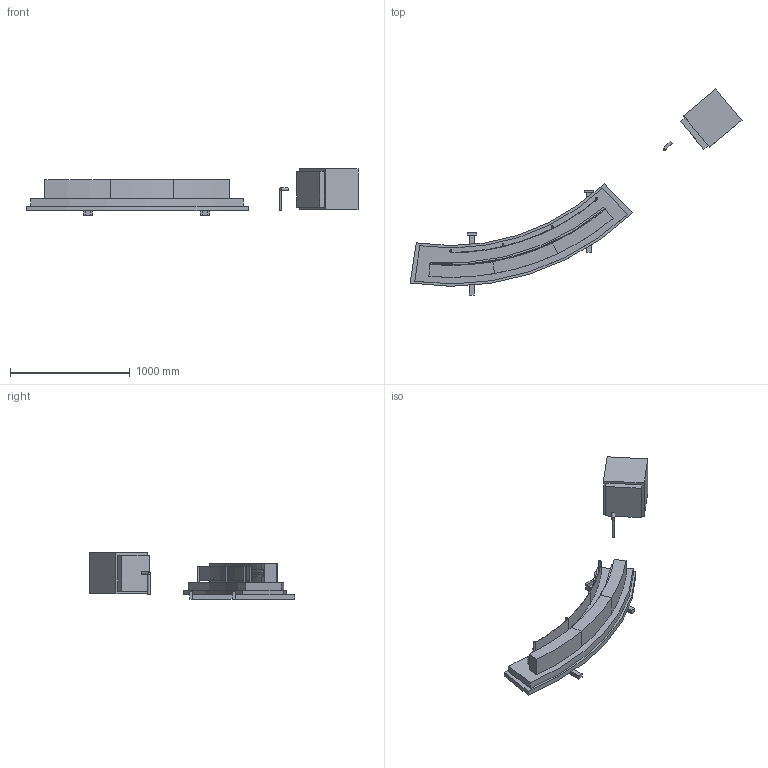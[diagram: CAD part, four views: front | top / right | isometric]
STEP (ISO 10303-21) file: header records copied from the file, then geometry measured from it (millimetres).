
FILE_DESCRIPTION(('Open CASCADE Model'),'2;1');
FILE_NAME('Open CASCADE Shape Model','2026-11-13T06:32:21',('Author'),( 'Open CASCADE'),'Open CASCADE STEP processor 7.9','Open CASCADE 7.9' ,'Unknown');
FILE_SCHEMA(('AUTOMOTIVE_DESIGN { 1 0 10303 214 1 1 1 1 }'));
Length unit declared in the file: millimetre
Products named in the file (34): T1_track_fixture; 00_BLOCK_1; 01_BLOCK_2; 02_BLOCK_3; 03_LINER; 04_LIP_UPPER; 05_LIP_LOWER; 06_PVDF_0; 07_PVDF_5; 08_PVDF_10; 09_PVDF_15; 10_PVDF_20; 11_PVDF_25; 12_PVDF_30; 13_PVDF_35; 14_PVDF_40; 15_WITNESS_1; 16_WITNESS_2; 17_WITNESS_3; 18_POST_1; 19_POST_2; 20_POST_3; 21_POST_4; 22_BASE_PLATE; 23_SLIDE_PLATE; 24_RAIL_1; 25_SHIM_PACK_1; 26_RAIL_2; 27_SHIM_PACK_2; 28_COUPON_(g_=_5); 29_CATCHER_FACE; 30_CATCHER_BODY; 31_PDV_PROBE; 32_PDV_POST
Assembly tree (33 placements, depth 2):
  T1_track_fixture
    00_BLOCK_1
    01_BLOCK_2
    02_BLOCK_3
    03_LINER
    04_LIP_UPPER
    05_LIP_LOWER
    06_PVDF_0
    07_PVDF_5
    08_PVDF_10
    09_PVDF_15
    10_PVDF_20
    11_PVDF_25
    12_PVDF_30
    13_PVDF_35
    14_PVDF_40
    15_WITNESS_1
    16_WITNESS_2
    17_WITNESS_3
    18_POST_1
    19_POST_2
    20_POST_3
    21_POST_4
    22_BASE_PLATE
    23_SLIDE_PLATE
    24_RAIL_1
    25_SHIM_PACK_1
    26_RAIL_2
    27_SHIM_PACK_2
    28_COUPON_(g_=_5)
    29_CATCHER_FACE
    30_CATCHER_BODY
    31_PDV_PROBE
    32_PDV_POST
Bounding box: 2770.04 x 1718.25 x 385 mm (x, y, z)
Volume: 132043313.1 mm3; surface area: 5638776.3 mm2
Topology: 33 solids, 33 shells, 230 faces, 474 edges, 316 vertices
Faces by surface type: plane 173, cylinder 57
Full cylindrical faces by diameter (mm): 16 x4, 20 x1, 25 x1
Entity records: 13019 total; most frequent: DIRECTION 2056, CARTESIAN_POINT 2032, LINE 1120, VECTOR 1120, ORIENTED_EDGE 948, PCURVE 948, DEFINITIONAL_REPRESENTATION 948, EDGE_CURVE 474
